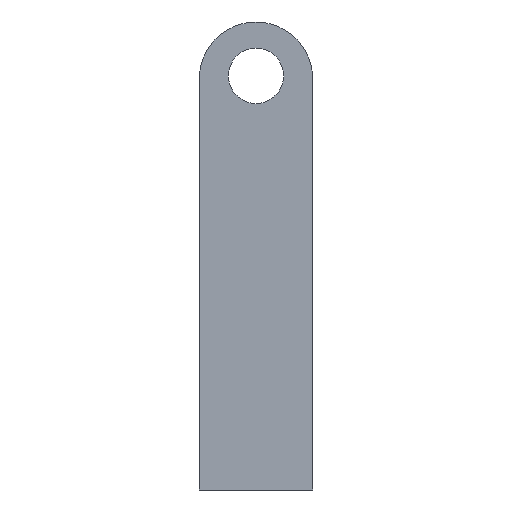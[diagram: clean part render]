
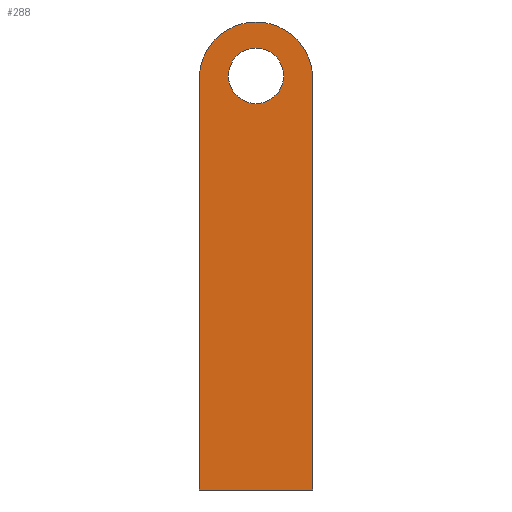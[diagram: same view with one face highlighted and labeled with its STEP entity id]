
A CAD part, front view. The second image highlights one B-rep face of the part: STEP entity #288.
In plain terms, the highlighted planar face has unit normal (0, -1, 0).
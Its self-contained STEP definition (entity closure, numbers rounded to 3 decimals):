
#2 = EDGE_CURVE ( 'NONE', #239, #299, #20, .T. ) ;
#10 = VERTEX_POINT ( 'NONE', #103 ) ;
#14 = CARTESIAN_POINT ( 'NONE',  ( -20., -5., -82.5 ) ) ;
#17 = CIRCLE ( 'NONE', #52, 20. ) ;
#20 = LINE ( 'NONE', #130, #229 ) ;
#22 = CARTESIAN_POINT ( 'NONE',  ( 0., -5., 62.5 ) ) ;
#25 = EDGE_CURVE ( 'NONE', #299, #56, #93, .T. ) ;
#38 = DIRECTION ( 'NONE',  ( -1., 0., 0. ) ) ;
#40 = CARTESIAN_POINT ( 'NONE',  ( 0., -5., 53.75 ) ) ;
#44 = CARTESIAN_POINT ( 'NONE',  ( 20., -5., -82.5 ) ) ;
#50 = EDGE_CURVE ( 'NONE', #80, #292, #216, .T. ) ;
#52 = AXIS2_PLACEMENT_3D ( 'NONE', #333, #171, #68 ) ;
#56 = VERTEX_POINT ( 'NONE', #14 ) ;
#68 = DIRECTION ( 'NONE',  ( 0., 0., 1. ) ) ;
#74 = EDGE_CURVE ( 'NONE', #10, #77, #17, .T. ) ;
#75 = DIRECTION ( 'NONE',  ( 0., 1., 0. ) ) ;
#77 = VERTEX_POINT ( 'NONE', #282 ) ;
#80 = VERTEX_POINT ( 'NONE', #40 ) ;
#82 = CARTESIAN_POINT ( 'NONE',  ( 0., -5., 62.5 ) ) ;
#93 = LINE ( 'NONE', #251, #322 ) ;
#97 = AXIS2_PLACEMENT_3D ( 'NONE', #148, #197, #200 ) ;
#103 = CARTESIAN_POINT ( 'NONE',  ( -20., -5., 62.5 ) ) ;
#106 = ORIENTED_EDGE ( 'NONE', *, *, #212, .F. ) ;
#107 = CIRCLE ( 'NONE', #119, 20. ) ;
#110 = FACE_OUTER_BOUND ( 'NONE', #265, .T. ) ;
#119 = AXIS2_PLACEMENT_3D ( 'NONE', #22, #314, #293 ) ;
#129 = DIRECTION ( 'NONE',  ( 0., 1., 0. ) ) ;
#130 = CARTESIAN_POINT ( 'NONE',  ( 20., -5., -82.5 ) ) ;
#132 = ORIENTED_EDGE ( 'NONE', *, *, #50, .T. ) ;
#134 = VECTOR ( 'NONE', #326, 1000. ) ;
#148 = CARTESIAN_POINT ( 'NONE',  ( 0., -5., 63.5 ) ) ;
#164 = EDGE_LOOP ( 'NONE', ( #169, #132 ) ) ;
#166 = LINE ( 'NONE', #222, #134 ) ;
#169 = ORIENTED_EDGE ( 'NONE', *, *, #257, .T. ) ;
#171 = DIRECTION ( 'NONE',  ( 0., 1., 0. ) ) ;
#178 = DIRECTION ( 'NONE',  ( 0., 0., 1. ) ) ;
#187 = AXIS2_PLACEMENT_3D ( 'NONE', #313, #75, #235 ) ;
#189 = ORIENTED_EDGE ( 'NONE', *, *, #74, .F. ) ;
#191 = EDGE_CURVE ( 'NONE', #56, #10, #166, .T. ) ;
#197 = DIRECTION ( 'NONE',  ( 0., 1., 0. ) ) ;
#200 = DIRECTION ( 'NONE',  ( 0., 0., 1. ) ) ;
#201 = AXIS2_PLACEMENT_3D ( 'NONE', #82, #129, #178 ) ;
#208 = ORIENTED_EDGE ( 'NONE', *, *, #2, .F. ) ;
#212 = EDGE_CURVE ( 'NONE', #77, #239, #107, .T. ) ;
#213 = FACE_BOUND ( 'NONE', #164, .T. ) ;
#215 = PLANE ( 'NONE',  #201 ) ;
#216 = CIRCLE ( 'NONE', #97, 9.75 ) ;
#222 = CARTESIAN_POINT ( 'NONE',  ( -20., -5., -82.5 ) ) ;
#229 = VECTOR ( 'NONE', #339, 1000. ) ;
#232 = CARTESIAN_POINT ( 'NONE',  ( 20., -5., 62.5 ) ) ;
#235 = DIRECTION ( 'NONE',  ( 0., 0., 1. ) ) ;
#239 = VERTEX_POINT ( 'NONE', #232 ) ;
#251 = CARTESIAN_POINT ( 'NONE',  ( -20., -5., -82.5 ) ) ;
#257 = EDGE_CURVE ( 'NONE', #292, #80, #296, .T. ) ;
#265 = EDGE_LOOP ( 'NONE', ( #305, #331, #208, #106, #189 ) ) ;
#282 = CARTESIAN_POINT ( 'NONE',  ( 0., -5., 82.5 ) ) ;
#286 = CARTESIAN_POINT ( 'NONE',  ( 0., -5., 73.25 ) ) ;
#288 = ADVANCED_FACE ( 'NONE', ( #213, #110 ), #215, .F. ) ;
#292 = VERTEX_POINT ( 'NONE', #286 ) ;
#293 = DIRECTION ( 'NONE',  ( 0., 0., 1. ) ) ;
#296 = CIRCLE ( 'NONE', #187, 9.75 ) ;
#299 = VERTEX_POINT ( 'NONE', #44 ) ;
#305 = ORIENTED_EDGE ( 'NONE', *, *, #191, .F. ) ;
#313 = CARTESIAN_POINT ( 'NONE',  ( 0., -5., 63.5 ) ) ;
#314 = DIRECTION ( 'NONE',  ( 0., 1., 0. ) ) ;
#322 = VECTOR ( 'NONE', #38, 1000. ) ;
#326 = DIRECTION ( 'NONE',  ( 0., 0., 1. ) ) ;
#331 = ORIENTED_EDGE ( 'NONE', *, *, #25, .F. ) ;
#333 = CARTESIAN_POINT ( 'NONE',  ( 0., -5., 62.5 ) ) ;
#339 = DIRECTION ( 'NONE',  ( 0., 0., -1. ) ) ;
